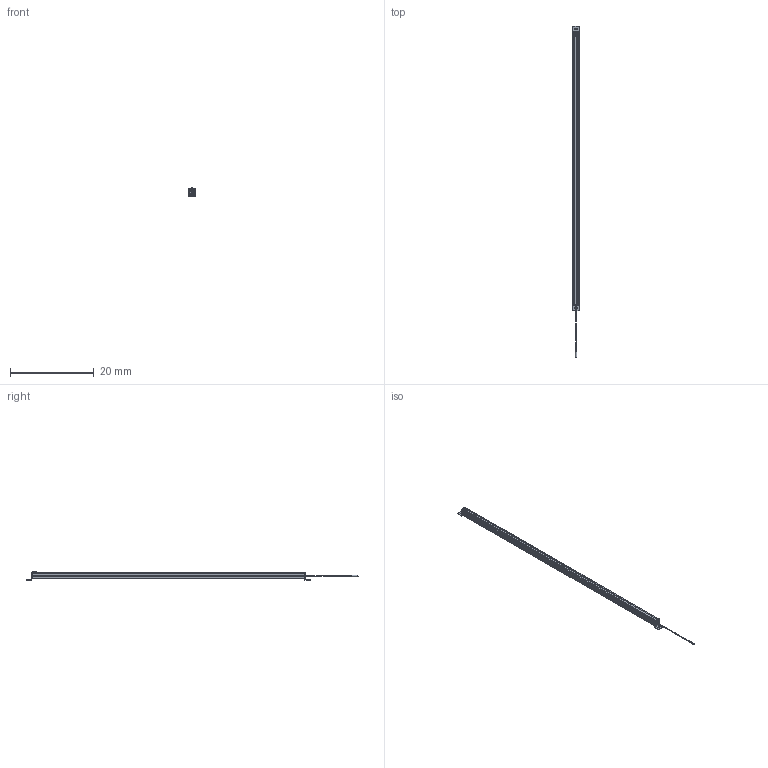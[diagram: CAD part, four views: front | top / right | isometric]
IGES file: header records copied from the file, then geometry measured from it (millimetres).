
Start section:  Autodesk DirectConnect version 7.0.27.0 ---- IGES version 5.3
Global section: file name: C:\ACADFILES\SS_PYLONS\CUSTOMER_FILES\SS-64-PYLON_3D_L.iges; native system: Autodesk DirectConnect 7.0.27.0; preprocessor: 7.0.27.0; author: ENGINEERMAIN; organization: Unknown; date: 20150810.125835; units: millimetre
Bounding box: 1.46 x 79.52 x 2.11 mm (x, y, z)
Surface area: 967.8 mm2 (no closed solid volume)
Topology: 0 solids, 0 shells, 475 faces, 2604 edges, 2623 vertices
Faces by surface type: bspline 475
